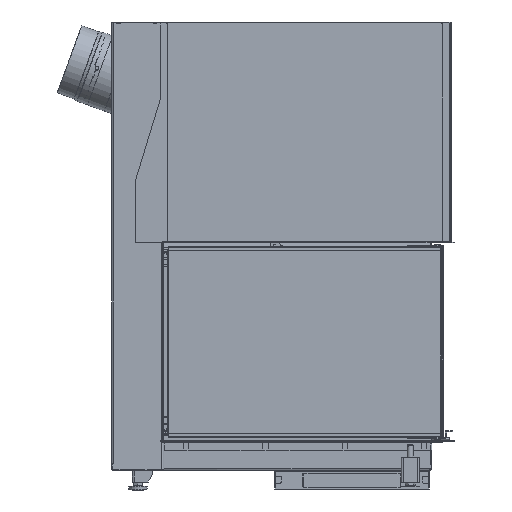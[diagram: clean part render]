
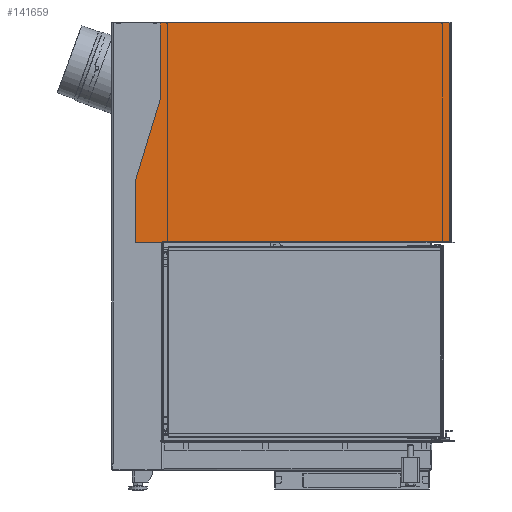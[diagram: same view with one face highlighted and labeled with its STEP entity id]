
A CAD part, left-side view. The second image highlights one B-rep face of the part: STEP entity #141659.
In plain terms, the highlighted planar face has unit normal (-1, 0, 0).
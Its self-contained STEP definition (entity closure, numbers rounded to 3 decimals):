
#6343=FACE_OUTER_BOUND('',#14155,.T.);
#14155=EDGE_LOOP('',(#95613,#95614,#95615,#95616,#95617,#95618,#95619,#95620,
#95621,#95622,#95623,#95624,#95625,#95626,#95627,#95628,#95629,#95630,#95631));
#21975=CIRCLE('',#150380,3.);
#21976=CIRCLE('',#150381,1.);
#21977=CIRCLE('',#150382,0.1);
#21978=CIRCLE('',#150383,3.);
#21979=CIRCLE('',#150384,3.);
#21980=CIRCLE('',#150385,0.1);
#21981=CIRCLE('',#150386,3.);
#21982=CIRCLE('',#150387,3.);
#28618=LINE('',#212877,#42814);
#28619=LINE('',#212881,#42815);
#28620=LINE('',#212885,#42816);
#28621=LINE('',#212887,#42817);
#28622=LINE('',#212889,#42818);
#28623=LINE('',#212893,#42819);
#28624=LINE('',#212899,#42820);
#28625=LINE('',#212901,#42821);
#28626=LINE('',#212903,#42822);
#28627=LINE('',#212907,#42823);
#28628=LINE('',#212910,#42824);
#42814=VECTOR('',#167913,10.);
#42815=VECTOR('',#167916,10.);
#42816=VECTOR('',#167919,10.);
#42817=VECTOR('',#167920,10.);
#42818=VECTOR('',#167921,10.);
#42819=VECTOR('',#167924,10.);
#42820=VECTOR('',#167929,10.);
#42821=VECTOR('',#167930,10.);
#42822=VECTOR('',#167931,10.);
#42823=VECTOR('',#167934,10.);
#42824=VECTOR('',#167937,10.);
#57107=VERTEX_POINT('',#212873);
#57108=VERTEX_POINT('',#212874);
#57109=VERTEX_POINT('',#212876);
#57110=VERTEX_POINT('',#212878);
#57111=VERTEX_POINT('',#212880);
#57112=VERTEX_POINT('',#212882);
#57113=VERTEX_POINT('',#212884);
#57114=VERTEX_POINT('',#212886);
#57115=VERTEX_POINT('',#212888);
#57116=VERTEX_POINT('',#212890);
#57117=VERTEX_POINT('',#212892);
#57118=VERTEX_POINT('',#212894);
#57119=VERTEX_POINT('',#212896);
#57120=VERTEX_POINT('',#212898);
#57121=VERTEX_POINT('',#212900);
#57122=VERTEX_POINT('',#212902);
#57123=VERTEX_POINT('',#212904);
#57124=VERTEX_POINT('',#212906);
#57125=VERTEX_POINT('',#212908);
#71601=EDGE_CURVE('',#57107,#57108,#21975,.T.);
#71602=EDGE_CURVE('',#57109,#57107,#28618,.T.);
#71603=EDGE_CURVE('',#57110,#57109,#21976,.T.);
#71604=EDGE_CURVE('',#57110,#57111,#28619,.T.);
#71605=EDGE_CURVE('',#57111,#57112,#21977,.T.);
#71606=EDGE_CURVE('',#57112,#57113,#28620,.T.);
#71607=EDGE_CURVE('',#57113,#57114,#28621,.T.);
#71608=EDGE_CURVE('',#57114,#57115,#28622,.T.);
#71609=EDGE_CURVE('',#57116,#57115,#21978,.T.);
#71610=EDGE_CURVE('',#57117,#57116,#28623,.T.);
#71611=EDGE_CURVE('',#57118,#57117,#21979,.T.);
#71612=EDGE_CURVE('',#57118,#57119,#21980,.T.);
#71613=EDGE_CURVE('',#57119,#57120,#28624,.T.);
#71614=EDGE_CURVE('',#57121,#57120,#28625,.T.);
#71615=EDGE_CURVE('',#57122,#57121,#28626,.T.);
#71616=EDGE_CURVE('',#57123,#57122,#21981,.T.);
#71617=EDGE_CURVE('',#57123,#57124,#28627,.T.);
#71618=EDGE_CURVE('',#57125,#57124,#21982,.T.);
#71619=EDGE_CURVE('',#57108,#57125,#28628,.T.);
#95613=ORIENTED_EDGE('',*,*,#71601,.F.);
#95614=ORIENTED_EDGE('',*,*,#71602,.F.);
#95615=ORIENTED_EDGE('',*,*,#71603,.F.);
#95616=ORIENTED_EDGE('',*,*,#71604,.T.);
#95617=ORIENTED_EDGE('',*,*,#71605,.T.);
#95618=ORIENTED_EDGE('',*,*,#71606,.T.);
#95619=ORIENTED_EDGE('',*,*,#71607,.T.);
#95620=ORIENTED_EDGE('',*,*,#71608,.T.);
#95621=ORIENTED_EDGE('',*,*,#71609,.F.);
#95622=ORIENTED_EDGE('',*,*,#71610,.F.);
#95623=ORIENTED_EDGE('',*,*,#71611,.F.);
#95624=ORIENTED_EDGE('',*,*,#71612,.T.);
#95625=ORIENTED_EDGE('',*,*,#71613,.T.);
#95626=ORIENTED_EDGE('',*,*,#71614,.F.);
#95627=ORIENTED_EDGE('',*,*,#71615,.F.);
#95628=ORIENTED_EDGE('',*,*,#71616,.F.);
#95629=ORIENTED_EDGE('',*,*,#71617,.T.);
#95630=ORIENTED_EDGE('',*,*,#71618,.F.);
#95631=ORIENTED_EDGE('',*,*,#71619,.F.);
#133277=PLANE('',#150379);
#141659=ADVANCED_FACE('',(#6343),#133277,.T.);
#150379=AXIS2_PLACEMENT_3D('',#212872,#167909,#167910);
#150380=AXIS2_PLACEMENT_3D('',#212875,#167911,#167912);
#150381=AXIS2_PLACEMENT_3D('',#212879,#167914,#167915);
#150382=AXIS2_PLACEMENT_3D('',#212883,#167917,#167918);
#150383=AXIS2_PLACEMENT_3D('',#212891,#167922,#167923);
#150384=AXIS2_PLACEMENT_3D('',#212895,#167925,#167926);
#150385=AXIS2_PLACEMENT_3D('',#212897,#167927,#167928);
#150386=AXIS2_PLACEMENT_3D('',#212905,#167932,#167933);
#150387=AXIS2_PLACEMENT_3D('',#212909,#167935,#167936);
#167909=DIRECTION('center_axis',(-1.,0.,0.));
#167910=DIRECTION('ref_axis',(0.,-1.,0.));
#167911=DIRECTION('center_axis',(1.,0.,0.));
#167912=DIRECTION('ref_axis',(0.,0.707,-0.707));
#167913=DIRECTION('',(0.,1.,0.));
#167914=DIRECTION('center_axis',(1.,0.,0.));
#167915=DIRECTION('ref_axis',(0.,-0.707,-0.707));
#167916=DIRECTION('',(0.,0.,1.));
#167917=DIRECTION('center_axis',(1.,0.,0.));
#167918=DIRECTION('ref_axis',(0.,-1.,0.));
#167919=DIRECTION('',(0.,0.,-1.));
#167920=DIRECTION('',(0.,-1.,0.));
#167921=DIRECTION('',(0.,0.,1.));
#167922=DIRECTION('center_axis',(1.,0.,0.));
#167923=DIRECTION('ref_axis',(0.,-0.707,
0.707));
#167924=DIRECTION('',(0.,-1.,0.));
#167925=DIRECTION('center_axis',(1.,0.,0.));
#167926=DIRECTION('ref_axis',(0.,0.,
-1.));
#167927=DIRECTION('center_axis',(1.,0.,0.));
#167928=DIRECTION('ref_axis',(0.,1.,0.));
#167929=DIRECTION('',(0.,0.,1.));
#167930=DIRECTION('',(0.,-1.,0.));
#167931=DIRECTION('',(0.,0.,1.));
#167932=DIRECTION('center_axis',(-1.,0.,0.));
#167933=DIRECTION('ref_axis',(0.,-0.989,
-0.148));
#167934=DIRECTION('',(0.,0.292,-0.956));
#167935=DIRECTION('center_axis',(1.,0.,0.));
#167936=DIRECTION('ref_axis',(0.,0.989,0.148));
#167937=DIRECTION('',(0.,0.,1.));
#212872=CARTESIAN_POINT('Origin',(-270.,-93.496,989.941));
#212873=CARTESIAN_POINT('',(-270.,375.504,632.5));
#212874=CARTESIAN_POINT('',(-270.,378.504,635.5));
#212875=CARTESIAN_POINT('Origin',(-270.,375.504,635.5));
#212876=CARTESIAN_POINT('',(-270.,302.704,632.5));
#212877=CARTESIAN_POINT('',(-270.,-495.496,632.5));
#212878=CARTESIAN_POINT('',(-270.,301.704,633.5));
#212879=CARTESIAN_POINT('Origin',(-270.,302.704,633.5));
#212880=CARTESIAN_POINT('',(-270.,301.704,635.35));
#212881=CARTESIAN_POINT('',(-270.,301.704,812.646));
#212882=CARTESIAN_POINT('',(-270.,301.504,635.35));
#212883=CARTESIAN_POINT('Origin',(-270.,301.604,635.35));
#212884=CARTESIAN_POINT('',(-270.,301.504,635.25));
#212885=CARTESIAN_POINT('',(-270.,301.504,811.221));
#212886=CARTESIAN_POINT('',(-270.,-495.496,635.25));
#212887=CARTESIAN_POINT('',(-270.,-294.496,635.25));
#212888=CARTESIAN_POINT('',(-270.,-495.496,1239.25));
#212889=CARTESIAN_POINT('',(-270.,-495.496,632.5));
#212890=CARTESIAN_POINT('',(-270.,-492.496,1242.25));
#212891=CARTESIAN_POINT('Origin',(-270.,-492.496,1239.25));
#212892=CARTESIAN_POINT('',(-270.,-474.426,1242.25));
#212893=CARTESIAN_POINT('',(-270.,-93.496,1242.25));
#212894=CARTESIAN_POINT('',(-270.,-473.139,1241.96));
#212895=CARTESIAN_POINT('Origin',(-270.,-474.426,1239.25));
#212896=CARTESIAN_POINT('',(-270.,-472.996,1242.05));
#212897=CARTESIAN_POINT('Origin',(-270.,-473.096,1242.05));
#212898=CARTESIAN_POINT('',(-270.,-472.996,1242.25));
#212899=CARTESIAN_POINT('',(-270.,-472.996,1116.096));
#212900=CARTESIAN_POINT('',(-270.,308.504,1242.25));
#212901=CARTESIAN_POINT('',(-270.,-93.496,1242.25));
#212902=CARTESIAN_POINT('',(-270.,308.504,1029.948));
#212903=CARTESIAN_POINT('',(-270.,308.504,632.5));
#212904=CARTESIAN_POINT('',(-270.,308.635,1029.071));
#212905=CARTESIAN_POINT('Origin',(-270.,311.504,1029.948));
#212906=CARTESIAN_POINT('',(-270.,378.373,800.969));
#212907=CARTESIAN_POINT('',(-270.,296.853,1067.61));
#212908=CARTESIAN_POINT('',(-270.,378.504,800.092));
#212909=CARTESIAN_POINT('Origin',(-270.,375.504,800.092));
#212910=CARTESIAN_POINT('',(-270.,378.504,632.5));
